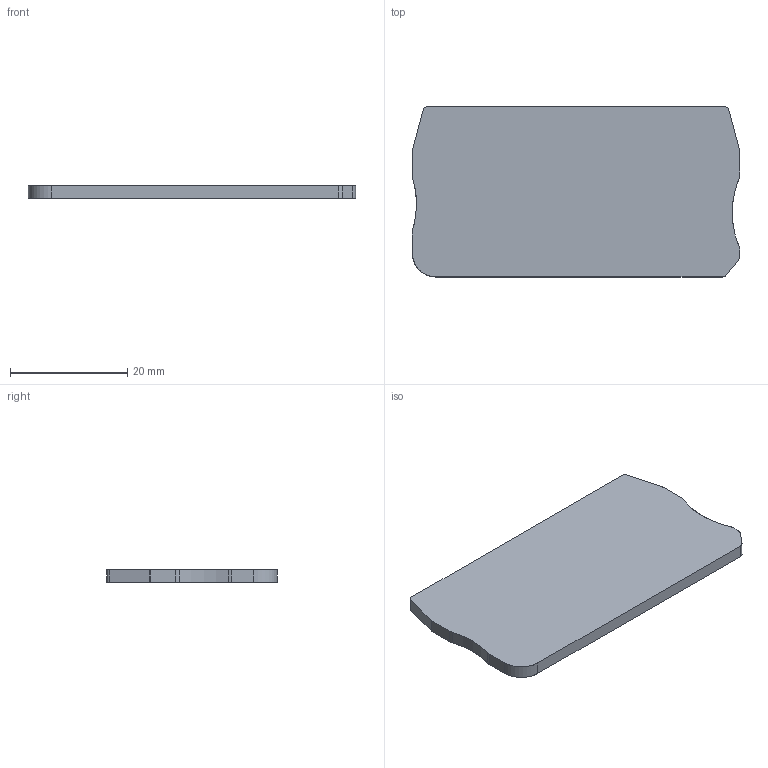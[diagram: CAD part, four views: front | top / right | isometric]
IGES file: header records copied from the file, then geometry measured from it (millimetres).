
Global section: file name: 3030420_d_st4.igs; native system: OneSpace Designer 3D IGES; preprocessor: 11.50A  18-Jul-2002; date: 20040203.102757; units: millimetre
Bounding box: 55.9 x 29.05 x 2.2 mm (x, y, z)
Surface area: 3539.4 mm2 (no closed solid volume)
Topology: 0 solids, 0 shells, 24 faces, 176 edges, 176 vertices
Faces by surface type: bspline 24
